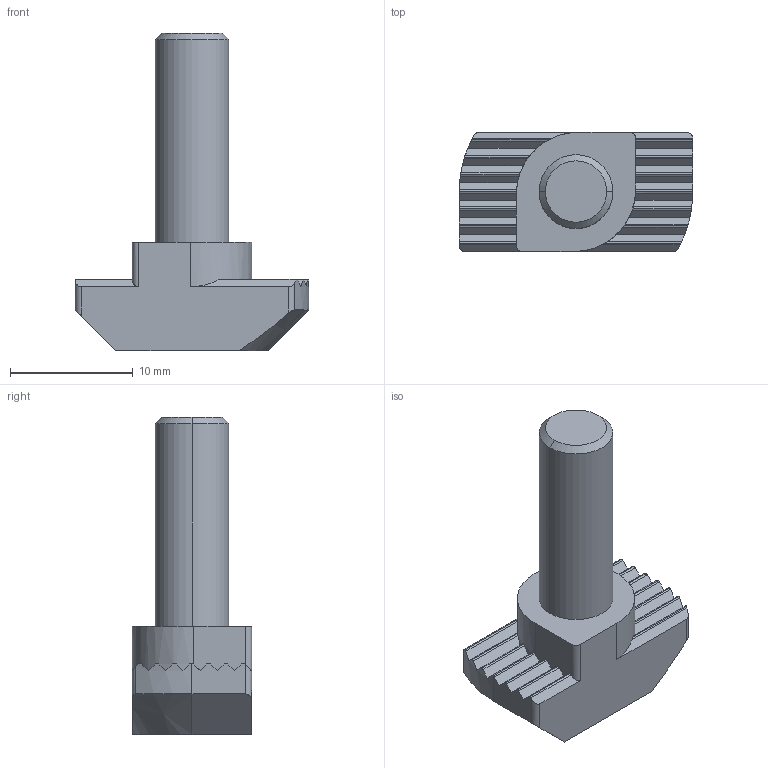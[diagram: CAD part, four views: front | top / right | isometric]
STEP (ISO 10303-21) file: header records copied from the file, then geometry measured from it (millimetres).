
FILE_DESCRIPTION(('STEP AP214'),'1');
FILE_NAME('C:/Program Files (x86)/Trace Software/PartsXML Tools/RobotPartsAuto/FATH/CAD/Temp/FATH_096HK1030M0620.stp','2016-05-23T17:10:54',('TraceParts'),('TraceParts S.A.'),'Spatial InterOp 3D',' ',' ');
FILE_SCHEMA(('automotive_design'));
Length unit declared in the file: millimetre
Products named in the file (1): Schnitt-Rotation1
Bounding box: 19 x 9.7 x 25.81 mm (x, y, z)
Volume: 1620.4 mm3; surface area: 1076.8 mm2
Topology: 1 solids, 1 shells, 97 faces, 270 edges, 175 vertices
Faces by surface type: plane 51, cylinder 40, cone 6
Entity records: 3960 total; most frequent: CARTESIAN_POINT 823, ORIENTED_EDGE 536, DIRECTION 438, EDGE_CURVE 268, VERTEX_POINT 175, AXIS2_PLACEMENT_3D 146, LINE 146, VECTOR 146
